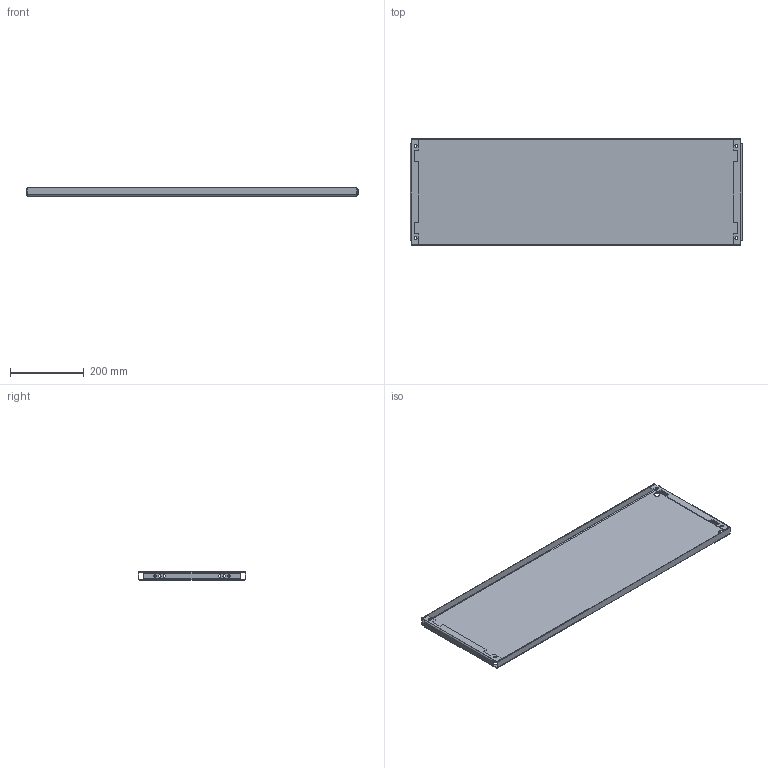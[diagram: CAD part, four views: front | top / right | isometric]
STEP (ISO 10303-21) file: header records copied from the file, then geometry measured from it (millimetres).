
FILE_DESCRIPTION(('STEP AP203'), '1');
FILE_NAME('3550 Ñåêöèîííàÿ ìîíòàæíàÿ ïàíåëü', '', ('UNSPECIFIED'), ('UNSPECIFIED'), 'C3D Converter', 'C3D Toolkit', '');
FILE_SCHEMA(('CONFIG_CONTROL_DESIGN'));
Length unit declared in the file: millimetre
Products named in the file (1): 3550.30.100
Bounding box: 900 x 292 x 22 mm (x, y, z)
Volume: 628349.3 mm3; surface area: 635075.1 mm2
Topology: 1 solids, 1 shells, 118 faces, 300 edges, 184 vertices
Faces by surface type: plane 66, cylinder 52
Full cylindrical faces by diameter (mm): 7 x12, 8 x4, 17 x4
Entity records: 3544 total; most frequent: DIRECTION 622, CARTESIAN_POINT 583, ORIENTED_EDGE 560, EDGE_CURVE 280, AXIS2_PLACEMENT_3D 223, VERTEX_POINT 184, EDGE_LOOP 178, LINE 176
